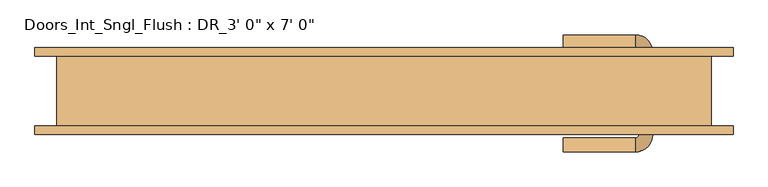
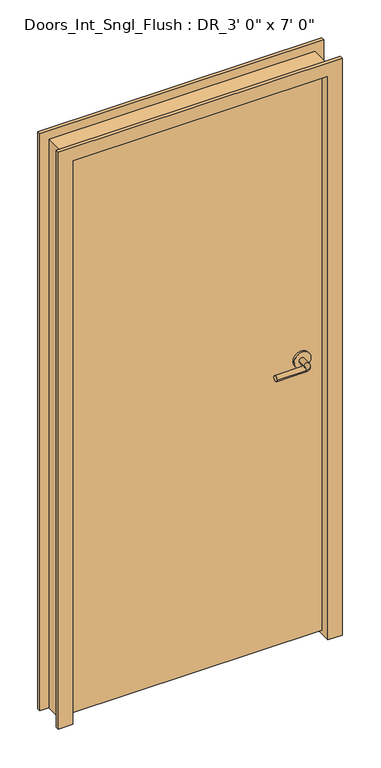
"""IFC4 building model written with IfcOpenShell, lengths in millimetres: door geometry."""

import ifcopenshell
import ifcopenshell.guid

model = None  # the IFC model being written
_history = None  # IfcOwnerHistory: only IFC2X3 demands one
_inside = {}  # id of a spatial element -> (the spatial element, [elements in it])
_under = {}  # id of a project, library or spatial element -> (it, [spatial elements below it])
_declared = {}  # id of a project -> (the project, [libraries it declares])
_typed = {}  # id of a type object -> (the type object, [elements of that type])
_made_of = {}  # id of a material, layer set ... -> (it, [elements and type objects made of it])


def new_model(schema):
    """Start an empty IFC model of exactly this schema.

    Asked for "IFC4X3", IfcOpenShell would pick the latest addendum, in which some entities
    have other attributes; the version numbers below select the first issue.
    IFC2X3 requires an IfcOwnerHistory on every rooted entity: one is made here for all.
    """
    global model, _history
    if schema == "IFC4X3":
        model = ifcopenshell.file(schema_version=(4, 3, 0, 0))
    else:
        model = ifcopenshell.file(schema=schema)
    _inside.clear()
    _under.clear()
    _declared.clear()
    _typed.clear()
    _made_of.clear()
    _history = None
    if model.schema == "IFC2X3":
        org = make("IfcOrganization", Name="unknown")
        user = make(
            "IfcPersonAndOrganization",
            ThePerson=make("IfcPerson", FamilyName="unknown"),
            TheOrganization=org,
        )
        app = make(
            "IfcApplication",
            ApplicationDeveloper=org,
            Version="unknown",
            ApplicationFullName="unknown",
            ApplicationIdentifier="unknown",
        )
        _history = make(
            "IfcOwnerHistory",
            OwningUser=user,
            OwningApplication=app,
            ChangeAction="ADDED",
            CreationDate=0,
        )
    return model


def make(cls, **values):
    """One entity of the class cls with the attributes given. An attribute that is None is left unset."""
    return model.create_entity(
        cls, **{name: value for name, value in values.items() if value is not None}
    )


def rooted(cls, **values):
    """An entity with a GlobalId (a new one), such as an element, a storey or a relation."""
    return make(cls, GlobalId=ifcopenshell.guid.new(), OwnerHistory=_history, **values)


def si_unit(unit_type, name, prefix=None):
    """IfcSIUnit, for example si_unit("LENGTHUNIT", "METRE", prefix="MILLI")."""
    return make("IfcSIUnit", UnitType=unit_type, Prefix=prefix, Name=name)


def assignment(units):
    """IfcUnitAssignment: the units of a project."""
    return None if units is None else make("IfcUnitAssignment", Units=units)


def point(xyz):
    """IfcCartesianPoint."""
    return None if xyz is None else make("IfcCartesianPoint", Coordinates=xyz)


def direction(xyz):
    """IfcDirection."""
    return None if xyz is None else make("IfcDirection", DirectionRatios=xyz)


def frame(location, z_axis=None, x_axis=None):
    """IfcAxis2Placement3D, a coordinate frame: its origin and axes. An axis left out is left unset."""
    return make(
        "IfcAxis2Placement3D",
        Location=point(location),
        Axis=direction(z_axis),
        RefDirection=direction(x_axis),
    )


def frame_2d(location, x_axis=None):
    """IfcAxis2Placement2D, a coordinate frame in the plane: its origin and x axis."""
    return make(
        "IfcAxis2Placement2D", Location=point(location), RefDirection=direction(x_axis)
    )


def origin():
    """The frame at (0, 0, 0) with its axes left unset."""
    return frame((0.0, 0.0, 0.0))


def place(relative_to, where):
    """IfcLocalPlacement: puts the frame where relative to a parent placement (None: the world)."""
    return make(
        "IfcLocalPlacement", PlacementRelTo=relative_to, RelativePlacement=where
    )


def context(
    kind, dimensions, precision=None, world=None, true_north=None, identifier=None
):
    """IfcGeometricRepresentationContext, for example the 3D "Model" context."""
    return make(
        "IfcGeometricRepresentationContext",
        ContextIdentifier=identifier,
        ContextType=kind,
        CoordinateSpaceDimension=dimensions,
        Precision=precision,
        WorldCoordinateSystem=world,
        TrueNorth=true_north,
    )


def project(units=None, contexts=None):
    """IfcProject with its units and contexts."""
    return rooted(
        "IfcProject",
        Name="project",
        RepresentationContexts=contexts,
        UnitsInContext=assignment(units),
    )


def spatial(cls, under=None, at=None, **own):
    """A site, building, storey or space (cls), placed at a placement, below another one or the project."""
    s = rooted(cls, ObjectPlacement=at, **own)
    if under is not None:
        _under.setdefault(under.id(), (under, []))[1].append(s)
    return s


def polyline(points):
    """IfcPolyline through the points."""
    return make("IfcPolyline", Points=[point(p) for p in points])


def circle_curve(where, radius):
    """IfcCircle in the frame where."""
    return make("IfcCircle", Position=where, Radius=radius)


def ellipse_curve(where, semi_axis1, semi_axis2):
    """IfcEllipse in the frame where."""
    return make(
        "IfcEllipse", Position=where, SemiAxis1=semi_axis1, SemiAxis2=semi_axis2
    )


def trimmed(basis, trim1, trim2, sense, master):
    """IfcTrimmedCurve: the piece of a basis curve between two trims."""
    return make(
        "IfcTrimmedCurve",
        BasisCurve=basis,
        Trim1=trim1,
        Trim2=trim2,
        SenseAgreement=sense,
        MasterRepresentation=master,
    )


def segment(curve, same_sense, transition):
    """IfcCompositeCurveSegment."""
    return make(
        "IfcCompositeCurveSegment",
        Transition=transition,
        SameSense=same_sense,
        ParentCurve=curve,
    )


def composite_curve(segments, self_intersect=None):
    """IfcCompositeCurve: segments joined end to end."""
    return make("IfcCompositeCurve", Segments=segments, SelfIntersect=self_intersect)


def outline(outer, holes=None, kind="AREA"):
    """IfcArbitraryClosedProfileDef: a profile drawn as a closed curve; with holes, ...WithVoids."""
    if holes is None:
        return make("IfcArbitraryClosedProfileDef", ProfileType=kind, OuterCurve=outer)
    return make(
        "IfcArbitraryProfileDefWithVoids",
        ProfileType=kind,
        OuterCurve=outer,
        InnerCurves=holes,
    )


def extrude(swept, where, along, depth):
    """IfcExtrudedAreaSolid: the profile swept, set in the frame where, extruded along a direction by depth."""
    return make(
        "IfcExtrudedAreaSolid",
        SweptArea=swept,
        Position=where,
        ExtrudedDirection=direction(along),
        Depth=depth,
    )


def faces_of(points, faces, orient=None, outer=None):
    """IfcFace entities. A face is a list of loops; a loop is a list of indices into points, from 0.

    orient and outer hold one flag for each loop. By default every Orientation is true, the
    first loop of a face is its IfcFaceOuterBound and the others are IfcFaceBound.
    """
    made = []
    for i, loops in enumerate(faces):
        bounds = []
        for j, loop in enumerate(loops):
            is_outer = j == 0 if outer is None else outer[i][j]
            bounds.append(
                make(
                    "IfcFaceOuterBound" if is_outer else "IfcFaceBound",
                    Bound=make("IfcPolyLoop", Polygon=[points[k] for k in loop]),
                    Orientation=True if orient is None else orient[i][j],
                )
            )
        made.append(make("IfcFace", Bounds=bounds))
    return made


def faceted_brep(points, faces, orient=None, outer=None, voids=None):
    """IfcFacetedBrep: a solid bounded by flat faces; with voids (closed shells), ...WithVoids."""
    shared = [point(p) for p in points]
    hull = make("IfcClosedShell", CfsFaces=faces_of(shared, faces, orient, outer))
    if voids is None:
        return make("IfcFacetedBrep", Outer=hull)
    return make(
        "IfcFacetedBrepWithVoids",
        Outer=hull,
        Voids=[
            make(cls, CfsFaces=faces_of(shared, fs, o, b)) for cls, fs, o, b in voids
        ],
    )


def shape(context_of_items, identifier, shape_type, items):
    """IfcShapeRepresentation: the items that make up one representation, for example the "Body"."""
    return make(
        "IfcShapeRepresentation",
        ContextOfItems=context_of_items,
        RepresentationIdentifier=identifier,
        RepresentationType=shape_type,
        Items=items,
    )


def source(mapping_origin, context_of_items, identifier, shape_type, items):
    """IfcRepresentationMap: a shape defined once, which mapped items show again and again."""
    return make(
        "IfcRepresentationMap",
        MappingOrigin=mapping_origin,
        MappedRepresentation=shape(context_of_items, identifier, shape_type, items),
    )


def transform(
    local_origin,
    x_axis=None,
    y_axis=None,
    z_axis=None,
    scale=None,
    scale2=None,
    scale3=None,
    uniform=True,
):
    """IfcCartesianTransformationOperator3D, or its non-uniform kind. x_axis, y_axis, z_axis: its Axis1, 2, 3."""
    if uniform:
        return make(
            "IfcCartesianTransformationOperator3D",
            Axis1=direction(x_axis),
            Axis2=direction(y_axis),
            LocalOrigin=point(local_origin),
            Scale=scale,
            Axis3=direction(z_axis),
        )
    return make(
        "IfcCartesianTransformationOperator3DnonUniform",
        Axis1=direction(x_axis),
        Axis2=direction(y_axis),
        LocalOrigin=point(local_origin),
        Scale=scale,
        Axis3=direction(z_axis),
        Scale2=scale2,
        Scale3=scale3,
    )


def mapped(mapping_source, mapping_target):
    """IfcMappedItem: shows the shape of a source again, moved by a transform."""
    return make(
        "IfcMappedItem", MappingSource=mapping_source, MappingTarget=mapping_target
    )


def made_of(thing, what):
    """Note that an element or type object is made of a material, layer set ...; save() writes the relation."""
    if what is not None:
        _made_of.setdefault(what.id(), (what, []))[1].append(thing)
    return thing


def element(
    cls,
    number,
    at=None,
    inside=None,
    cuts=None,
    type_object=None,
    material=None,
    context=None,
    identifier="Body",
    shape_type=None,
    held_by="IfcProductDefinitionShape",
    body=None,
    shapes=None,
    **own,
):
    """One element of the class cls, such as IfcWall. Its Tag is "e" and its number.

    at: its placement. inside: the storey or other place that contains it. cuts: it is an
    opening in that element (IfcRelVoidsElement). A single representation is given by context,
    identifier, shape_type and body (its items); several are given by shapes. held_by: the class
    of the entity that holds the representations. save() writes the other relations.
    """
    e = rooted(cls, Tag="e%d" % number, ObjectPlacement=at, **own)
    if body is not None:
        shapes = [shape(context, identifier, shape_type, body)]
    if shapes is not None:
        e.Representation = make(held_by, Representations=shapes)
    if inside is not None:
        _inside.setdefault(inside.id(), (inside, []))[1].append(e)
    if cuts is not None:
        rooted(
            "IfcRelVoidsElement", RelatingBuildingElement=cuts, RelatedOpeningElement=e
        )
    if type_object is not None:
        _typed.setdefault(type_object.id(), (type_object, []))[1].append(e)
    return made_of(e, material)


def aggregate(whole, parts):
    """IfcRelAggregates: a whole, such as a stair, and the parts it consists of."""
    return rooted("IfcRelAggregates", RelatingObject=whole, RelatedObjects=parts)


def save(model, path):
    """Write the relations noted so far, then the file.

    IfcRelAggregates (storeys below a building ...), IfcRelContainedInSpatialStructure (elements
    in a storey), IfcRelDefinesByType, IfcRelAssociatesMaterial and IfcRelDeclares: one each for
    every whole, place, type object, material and project.
    """
    for whole, parts in _under.values():
        aggregate(whole, parts)
    for where, things in _inside.values():
        rooted(
            "IfcRelContainedInSpatialStructure",
            RelatedElements=things,
            RelatingStructure=where,
        )
    for kind, things in _typed.values():
        rooted("IfcRelDefinesByType", RelatedObjects=things, RelatingType=kind)
    for what, things in _made_of.values():
        rooted("IfcRelAssociatesMaterial", RelatedObjects=things, RelatingMaterial=what)
    for by, libraries in _declared.values():
        rooted("IfcRelDeclares", RelatingContext=by, RelatedDefinitions=libraries)
    model.write(path)


def plane_surface(at):
    """IfcPlane: the flat surface through the origin of the frame at, square to its z axis."""
    return make("IfcPlane", Position=at)


def cylinder_surface(at, radius):
    """IfcCylindricalSurface: all points at the distance radius from the z axis of the frame at."""
    return make("IfcCylindricalSurface", Position=at, Radius=radius)


def revolved_surface(curve, axis_point, axis_direction):
    """IfcSurfaceOfRevolution: the curve turned about the line through axis_point along axis_direction."""
    return make(
        "IfcSurfaceOfRevolution",
        SweptCurve=make("IfcArbitraryOpenProfileDef", ProfileType="CURVE", Curve=curve),
        AxisPosition=make("IfcAxis1Placement", Location=point(axis_point), Axis=direction(axis_direction)),
    )


def advanced_brep(points, edges, surfaces, faces):
    """IfcAdvancedBrep: a solid bounded by faces that lie on surfaces and meet in shared edges.

    An edge is (start, end): straight between two places in points (the first is 0);
    or (start, end, curve); or (start, end, curve, False) where it runs against its curve.
    A face is (place in surfaces, loops), or (place, loops, False) where it looks against
    its surface's normal. A loop lists edges by number (the first is 1), with a minus sign
    where the edge is run from its end to its start. The first loop is the outer one.
    """
    corners = [point(p) for p in points]
    vertices = [make("IfcVertexPoint", VertexGeometry=c) for c in corners]
    made = []
    for start, end, *more in edges:
        made.append(
            make(
                "IfcEdgeCurve",
                EdgeStart=vertices[start],
                EdgeEnd=vertices[end],
                EdgeGeometry=more[0] if more else make("IfcPolyline", Points=[corners[start], corners[end]]),
                SameSense=more[1] if len(more) > 1 else True,
            )
        )
    hull = []
    for where, loops, *sense in faces:
        bounds = []
        for j, loop in enumerate(loops):
            ring = [make("IfcOrientedEdge", EdgeElement=made[abs(k) - 1], Orientation=k > 0) for k in loop]
            bounds.append(
                make(
                    "IfcFaceOuterBound" if j == 0 else "IfcFaceBound",
                    Bound=make("IfcEdgeLoop", EdgeList=ring),
                    Orientation=True,
                )
            )
        hull.append(make("IfcAdvancedFace", Bounds=bounds, FaceSurface=surfaces[where], SameSense=sense[0] if sense else True))
    return make("IfcAdvancedBrep", Outer=make("IfcClosedShell", CfsFaces=hull))


def door_ba266265(model_context):
    return source(origin(), model_context, "Body", "SolidModel", [
        advanced_brep(
        [(391.0, -33.4, 1066.8), (371.0, -33.4, 1066.8), (391.0, -63.4, 1066.8), (371.0, -63.4, 1066.8), (366.0, -68.4, 1066.8), (366.0, -88.4, 1066.8), (261.0, -88.4, 1066.8), (261.0, -68.4, 1066.8)],
        [
            (0, 1, circle_curve(frame((381.0, -33.4, 1066.8), z_axis=(0.0, 1.0, 0.0), x_axis=(-1.0, 0.0, 0.0)), 10.0)),
            (1, 0, circle_curve(frame((381.0, -33.4, 1066.8), z_axis=(0.0, 1.0, 0.0), x_axis=(-1.0, 0.0, 0.0)), 10.0)),
            (0, 2),
            (2, 3, circle_curve(frame((381.0, -63.4, 1066.8), z_axis=(0.0, 1.0, 0.0), x_axis=(-1.0, 0.0, 0.0)), 10.0)),
            (3, 1),
            (3, 2, circle_curve(frame((381.0, -63.4, 1066.8), z_axis=(0.0, 1.0, 0.0), x_axis=(-1.0, 0.0, 0.0)), 10.0)),
            (4, 3, circle_curve(frame((366.0, -63.4, 1066.8), z_axis=(0.0, 0.0, 1.0), x_axis=(1.0, 0.0, 0.0)), 5.0)),
            (2, 5, circle_curve(frame((366.0, -63.4, 1066.8), z_axis=(0.0, 0.0, -1.0), x_axis=(1.0, 0.0, 0.0)), 25.0)),
            (5, 4, circle_curve(frame((366.0, -78.4, 1066.8), z_axis=(1.0, 0.0, 0.0), x_axis=(0.0, 1.0, 0.0)), 10.0)),
            (4, 5, circle_curve(frame((366.0, -78.4, 1066.8), z_axis=(1.0, 0.0, 0.0), x_axis=(0.0, 1.0, 0.0)), 10.0)),
            (6, 7, circle_curve(frame((261.0, -78.4, 1066.8), z_axis=(-1.0, 0.0, 0.0), x_axis=(0.0, 1.0, 0.0)), 10.0)),
            (7, 6, circle_curve(frame((261.0, -78.4, 1066.8), z_axis=(-1.0, 0.0, 0.0), x_axis=(0.0, 1.0, 0.0)), 10.0)),
            (5, 6),
            (7, 4),
        ],
        [
            plane_surface(frame((381.0, -33.4, 1066.8), z_axis=(0.0, 1.0, 0.0), x_axis=(0.0, 0.0, 1.0))),
            cylinder_surface(frame((381.0, -33.4, 1066.8), z_axis=(0.0, 1.0, 0.0), x_axis=(-1.0, 0.0, 0.0)), 10.0),
            revolved_surface(trimmed(ellipse_curve(frame((381.0, -63.4, 1066.8), z_axis=(0.0, 1.0, 0.0), x_axis=(-1.0, 0.0, 0.0)), 10.0, 10.0), [point((391.0, -63.4, 1066.8))], [point((371.0, -63.4, 1066.8))], True, "CARTESIAN"), (366.0, -63.4, 1066.8), (0.0, 0.0, -1.0)),
            revolved_surface(trimmed(ellipse_curve(frame((381.0, -63.4, 1066.8), z_axis=(0.0, 1.0, 0.0), x_axis=(-1.0, 0.0, 0.0)), 10.0, 10.0), [point((371.0, -63.4, 1066.8))], [point((391.0, -63.4, 1066.8))], True, "CARTESIAN"), (366.0, -63.4, 1066.8), (0.0, 0.0, -1.0)),
            plane_surface(frame((261.0, -78.4, 1066.8), z_axis=(-1.0, 0.0, 0.0), x_axis=(0.0, 0.0, 1.0))),
            cylinder_surface(frame((366.0, -78.4, 1066.8), z_axis=(1.0, 0.0, 0.0), x_axis=(0.0, 1.0, 0.0)), 10.0),
        ],
        [
            (0, [[1, 2]]),
            (1, [[-1, 3, 4, 5]]),
            (1, [[-2, -5, 6, -3]]),
            (2, [[7, -4, 8, 9]]),
            (3, [[-8, -6, -7, 10]]),
            (4, [[11, 12]]),
            (5, [[-9, 13, -12, 14]]),
            (5, [[-10, -14, -11, -13]]),
        ],
    ),
        extrude(outline(composite_curve([segment(trimmed(circle_curve(frame_2d((1066.8, 383.5)), 30.0), [point((1066.8, 413.5))], [point((1066.8, 353.5))], False, "CARTESIAN"), True, "CONTINUOUS"), segment(trimmed(circle_curve(frame_2d((1066.8, 383.5)), 30.0), [point((1066.8, 353.5))], [point((1066.8, 413.5))], False, "CARTESIAN"), True, "CONTINUOUS")], self_intersect=False)), frame((0.0, -33.4, 0.0), z_axis=(0.0, 1.0, 0.0), x_axis=(0.0, 0.0, 1.0)), (0.0, 0.0, 1.0), 8.0),
        advanced_brep(
        [(391.0, 27.05, 1066.8), (371.0, 27.05, 1066.8), (371.0, 57.05, 1066.8), (391.0, 57.05, 1066.8), (366.0, 62.05, 1066.8), (366.0, 82.05, 1066.8), (261.0, 82.05, 1066.8), (261.0, 62.05, 1066.8)],
        [
            (0, 1, circle_curve(frame((381.0, 27.05, 1066.8), z_axis=(0.0, -1.0, 0.0), x_axis=(-1.0, 0.0, 0.0)), 10.0)),
            (1, 0, circle_curve(frame((381.0, 27.05, 1066.8), z_axis=(0.0, -1.0, 0.0), x_axis=(-1.0, 0.0, 0.0)), 10.0)),
            (1, 2),
            (2, 3, circle_curve(frame((381.0, 57.05, 1066.8), z_axis=(0.0, -1.0, 0.0), x_axis=(-1.0, 0.0, 0.0)), 10.0)),
            (3, 0),
            (3, 2, circle_curve(frame((381.0, 57.05, 1066.8), z_axis=(0.0, -1.0, 0.0), x_axis=(-1.0, 0.0, 0.0)), 10.0)),
            (4, 5, circle_curve(frame((366.0, 72.05, 1066.8), z_axis=(1.0, 0.0, 0.0), x_axis=(0.0, -1.0, 0.0)), 10.0)),
            (5, 3, circle_curve(frame((366.0, 57.05, 1066.8), z_axis=(0.0, 0.0, -1.0), x_axis=(1.0, 0.0, 0.0)), 25.0)),
            (2, 4, circle_curve(frame((366.0, 57.05, 1066.8), z_axis=(0.0, 0.0, 1.0), x_axis=(1.0, 0.0, 0.0)), 5.0)),
            (5, 4, circle_curve(frame((366.0, 72.05, 1066.8), z_axis=(1.0, 0.0, 0.0), x_axis=(0.0, -1.0, 0.0)), 10.0)),
            (6, 7, circle_curve(frame((261.0, 72.05, 1066.8), z_axis=(-1.0, 0.0, 0.0), x_axis=(0.0, -1.0, 0.0)), 10.0)),
            (7, 6, circle_curve(frame((261.0, 72.05, 1066.8), z_axis=(-1.0, 0.0, 0.0), x_axis=(0.0, -1.0, 0.0)), 10.0)),
            (4, 7),
            (6, 5),
        ],
        [
            plane_surface(frame((381.0, 27.05, 1066.8), z_axis=(0.0, -1.0, 0.0), x_axis=(0.0, 0.0, 1.0))),
            cylinder_surface(frame((381.0, 27.05, 1066.8), z_axis=(0.0, -1.0, 0.0), x_axis=(-1.0, 0.0, 0.0)), 10.0),
            revolved_surface(trimmed(ellipse_curve(frame((381.0, 57.05, 1066.8), z_axis=(0.0, 1.0, 0.0), x_axis=(-1.0, 0.0, 0.0)), 10.0, 10.0), [point((391.0, 57.05, 1066.8))], [point((371.0, 57.05, 1066.8))], True, "CARTESIAN"), (366.0, 57.05, 1066.8), (0.0, 0.0, -1.0)),
            revolved_surface(trimmed(ellipse_curve(frame((381.0, 57.05, 1066.8), z_axis=(0.0, 1.0, 0.0), x_axis=(-1.0, 0.0, 0.0)), 10.0, 10.0), [point((371.0, 57.05, 1066.8))], [point((391.0, 57.05, 1066.8))], True, "CARTESIAN"), (366.0, 57.05, 1066.8), (0.0, 0.0, -1.0)),
            plane_surface(frame((261.0, 72.05, 1066.8), z_axis=(-1.0, 0.0, 0.0), x_axis=(0.0, 0.0, 1.0))),
            cylinder_surface(frame((366.0, 72.05, 1066.8), z_axis=(1.0, 0.0, 0.0), x_axis=(0.0, -1.0, 0.0)), 10.0),
        ],
        [
            (0, [[1, 2]]),
            (1, [[3, 4, 5, -2]]),
            (1, [[-5, 6, -3, -1]]),
            (2, [[7, 8, -4, 9]]),
            (3, [[10, -9, -6, -8]]),
            (4, [[11, 12]]),
            (5, [[13, -11, 14, -7]]),
            (5, [[-14, -12, -13, -10]]),
        ],
    ),
        extrude(outline(composite_curve([segment(trimmed(circle_curve(frame_2d((1066.8, 383.5)), 30.0), [point((1066.8, 413.5))], [point((1066.8, 353.5))], False, "CARTESIAN"), True, "CONTINUOUS"), segment(trimmed(circle_curve(frame_2d((1066.8, 383.5)), 30.0), [point((1066.8, 353.5))], [point((1066.8, 413.5))], False, "CARTESIAN"), True, "CONTINUOUS")], self_intersect=False)), frame((0.0, 19.05, 0.0), z_axis=(0.0, 1.0, 0.0), x_axis=(0.0, 0.0, 1.0)), (0.0, 0.0, 1.0), 8.0),
        extrude(outline(polyline([(-457.2, -25.4), (-457.2, 19.05), (457.2, 19.05), (457.2, -25.4), (-457.2, -25.4)])), frame((0.0, 0.0, 12.7), z_axis=(0.0, 0.0, 1.0), x_axis=(1.0, 0.0, 0.0)), (0.0, 0.0, 1.0), 2120.9),
        faceted_brep([(-457.2, 63.5, 0.0), (-457.2, -63.5, 0.0), (-508.0, -63.5, 0.0), (-508.0, -50.8, 0.0), (-476.25, -50.8, 0.0), (-476.25, 50.8, 0.0), (-508.0, 50.8, 0.0), (-508.0, 63.5, 0.0), (-508.0, 63.5, 2184.4), (508.0, 63.5, 2184.4), (508.0, 63.5, 0.0), (457.2, 63.5, 0.0), (457.2, 63.5, 2133.6), (-457.2, 63.5, 2133.6), (-508.0, 50.8, 2184.4), (-476.25, 50.8, 2152.65), (476.25, 50.8, 2152.65), (476.25, 50.8, 0.0), (508.0, 50.8, 0.0), (508.0, 50.8, 2184.4), (-476.25, -50.8, 2152.65), (-508.0, -50.8, 2184.4), (508.0, -50.8, 2184.4), (508.0, -50.8, 0.0), (476.25, -50.8, 0.0), (476.25, -50.8, 2152.65), (-508.0, -63.5, 2184.4), (-457.2, -63.5, 2133.6), (457.2, -63.5, 2133.6), (457.2, -63.5, 0.0), (508.0, -63.5, 0.0), (508.0, -63.5, 2184.4)], [[[0, 1, 2, 3, 4, 5, 6, 7]], [[7, 8, 9, 10, 11, 12, 13, 0]], [[6, 14, 8, 7]], [[5, 15, 16, 17, 18, 19, 14, 6]], [[4, 20, 15, 5]], [[3, 21, 22, 23, 24, 25, 20, 4]], [[2, 26, 21, 3]], [[1, 27, 28, 29, 30, 31, 26, 2]], [[0, 13, 27, 1]], [[12, 11, 29, 28]], [[11, 10, 18, 17, 24, 23, 30, 29]], [[19, 18, 10, 9]], [[31, 30, 23, 22]], [[25, 24, 17, 16]], [[20, 25, 16, 15]], [[13, 12, 28, 27]], [[14, 19, 9, 8]], [[26, 31, 22, 21]]]),
    ])


if __name__ == "__main__":
    model = new_model("IFC4")
    model_context = context("Model", 3, world=origin())
    ifc_project = project(units=[si_unit("LENGTHUNIT", "METRE", prefix="MILLI")], contexts=[model_context])
    site = spatial("IfcSite", under=ifc_project)
    building = spatial("IfcBuilding", under=site)
    placement = place(None, origin())
    door_shape = door_ba266265(model_context)
    element("IfcDoor", 1, ObjectType="Doors_Int_Sngl_Flush : DR_3' 0\" x 7' 0\"", at=placement, inside=building, context=model_context, shape_type="MappedRepresentation", body=[
        mapped(door_shape, transform((0.0, 0.0, 0.0), x_axis=(1.0, 0.0, 0.0), y_axis=(0.0, 1.0, 0.0), z_axis=(0.0, 0.0, 1.0))),
    ])
    save(model, "model.ifc")
